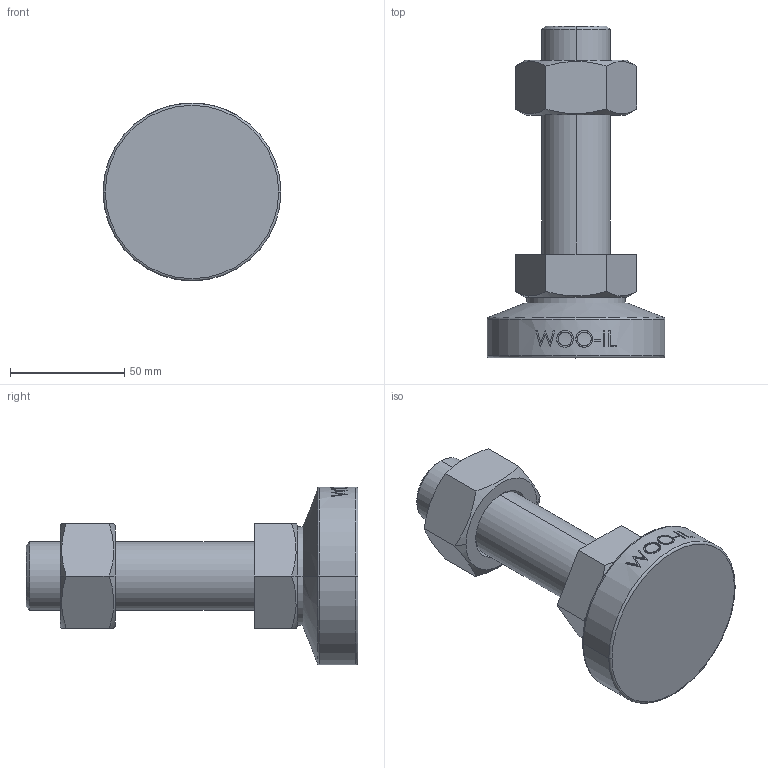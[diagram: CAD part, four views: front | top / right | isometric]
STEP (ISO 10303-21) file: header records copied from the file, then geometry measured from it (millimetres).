
FILE_DESCRIPTION (( 'STEP AP214' ), '1' );
FILE_NAME ('MFB78-M30-100.step', '2022-06-27T08:36:02', ( '' ), ( '' ), 'SwSTEP 2.0', 'SolidWorks 2019', '' );
FILE_SCHEMA (( 'AUTOMOTIVE_DESIGN' ));
Length unit declared in the file: millimetre
Products named in the file (1): MFB78-M30-100
Bounding box: 78 x 145.5 x 78 mm (x, y, z)
Volume: 238555.3 mm3; surface area: 38115.5 mm2
Topology: 3 solids, 3 shells, 97 faces, 225 edges, 144 vertices
Faces by surface type: plane 47, cylinder 16, bspline 16, cone 14, torus 4
Entity records: 4305 total; most frequent: CARTESIAN_POINT 2175, ORIENTED_EDGE 450, DIRECTION 385, EDGE_CURVE 225, AXIS2_PLACEMENT_3D 144, VERTEX_POINT 144, EDGE_LOOP 109, LINE 97
